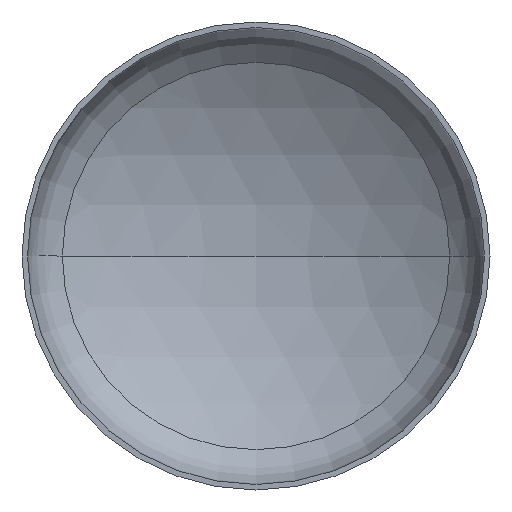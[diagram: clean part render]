
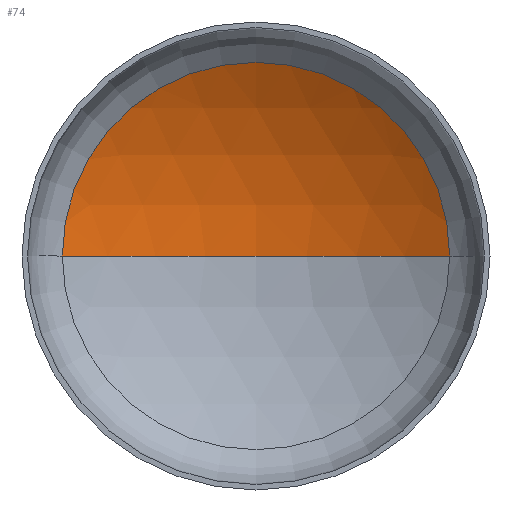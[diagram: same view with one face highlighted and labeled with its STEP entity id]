
A CAD part, front view. The second image highlights one B-rep face of the part: STEP entity #74.
In plain terms, the highlighted spherical face has radius 3040 mm.
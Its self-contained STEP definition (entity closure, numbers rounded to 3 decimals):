
#9 = CARTESIAN_POINT ( 'NONE',  ( 0., 640.641, 0. ) ) ;
#12 = VERTEX_POINT ( 'NONE', #148 ) ;
#27 = ORIENTED_EDGE ( 'NONE', *, *, #122, .T. ) ;
#33 = DIRECTION ( 'NONE',  ( 0., -1., 0. ) ) ;
#34 = CIRCLE ( 'NONE', #40, 3040. ) ;
#35 = VERTEX_POINT ( 'NONE', #293 ) ;
#40 = AXIS2_PLACEMENT_3D ( 'NONE', #95, #290, #160 ) ;
#43 = AXIS2_PLACEMENT_3D ( 'NONE', #360, #228, #386 ) ;
#44 = ORIENTED_EDGE ( 'NONE', *, *, #125, .F. ) ;
#45 = AXIS2_PLACEMENT_3D ( 'NONE', #9, #33, #172 ) ;
#71 = AXIS2_PLACEMENT_3D ( 'NONE', #253, #244, #241 ) ;
#72 = VERTEX_POINT ( 'NONE', #87 ) ;
#74 = ADVANCED_FACE ( 'NONE', ( #319 ), #153, .F. ) ;
#87 = CARTESIAN_POINT ( 'NONE',  ( 1572.627, 640.641, 0. ) ) ;
#95 = CARTESIAN_POINT ( 'NONE',  ( 0., -1960.982, 0. ) ) ;
#116 = EDGE_CURVE ( 'NONE', #72, #35, #186, .T. ) ;
#122 = EDGE_CURVE ( 'NONE', #12, #72, #248, .T. ) ;
#124 = EDGE_LOOP ( 'NONE', ( #44, #27, #156 ) ) ;
#125 = EDGE_CURVE ( 'NONE', #12, #35, #34, .T. ) ;
#148 = CARTESIAN_POINT ( 'NONE',  ( 0., 1079.018, 0. ) ) ;
#153 = SPHERICAL_SURFACE ( 'NONE', #71, 3040. ) ;
#156 = ORIENTED_EDGE ( 'NONE', *, *, #116, .T. ) ;
#160 = DIRECTION ( 'NONE',  ( 1., 0., 0. ) ) ;
#172 = DIRECTION ( 'NONE',  ( 1., 0., 0. ) ) ;
#186 = CIRCLE ( 'NONE', #45, 1572.627 ) ;
#228 = DIRECTION ( 'NONE',  ( 0., 0., -1. ) ) ;
#241 = DIRECTION ( 'NONE',  ( -1., 0., 0. ) ) ;
#244 = DIRECTION ( 'NONE',  ( 0., 0., -1. ) ) ;
#248 = CIRCLE ( 'NONE', #43, 3040. ) ;
#253 = CARTESIAN_POINT ( 'NONE',  ( 0., -1960.982, 0. ) ) ;
#290 = DIRECTION ( 'NONE',  ( 0., 0., 1. ) ) ;
#293 = CARTESIAN_POINT ( 'NONE',  ( -1572.627, 640.641, 0. ) ) ;
#319 = FACE_OUTER_BOUND ( 'NONE', #124, .T. ) ;
#360 = CARTESIAN_POINT ( 'NONE',  ( 0., -1960.982, 0. ) ) ;
#386 = DIRECTION ( 'NONE',  ( -1., 0., 0. ) ) ;
